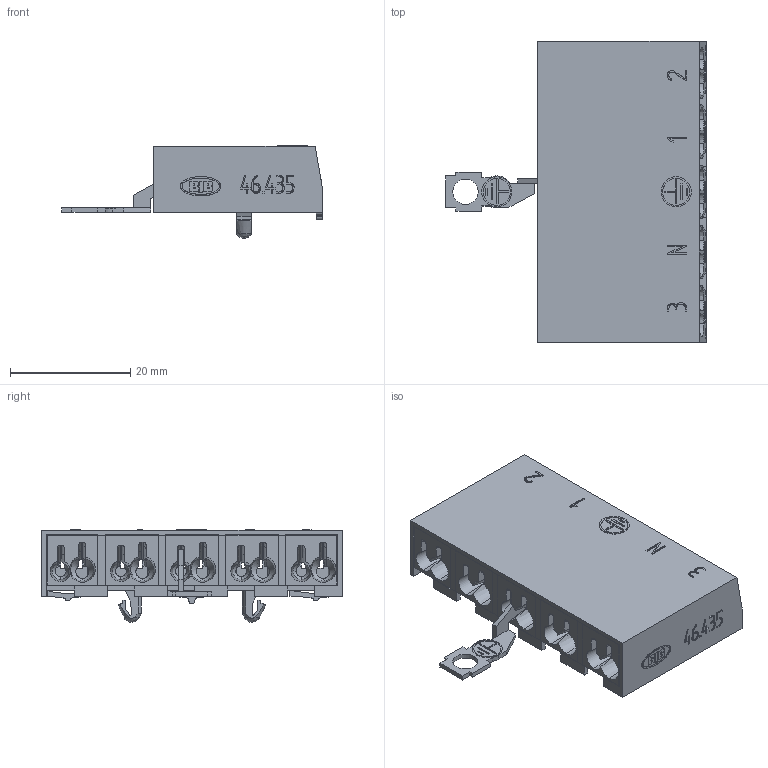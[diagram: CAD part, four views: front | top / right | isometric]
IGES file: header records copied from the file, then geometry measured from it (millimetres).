
Global section: file name: C:\CoreTechnologie\3D-in\011YM0FY02.igs; native system: CT CoreTechnologie 3D Evolution; preprocessor: 2006; date: 1180424.082156; units: millimetre
Bounding box: 43.3 x 50.05 x 15.39 mm (x, y, z)
Volume: 7012.3 mm3; surface area: 14001.4 mm2
Topology: 11 solids, 11 shells, 921 faces, 2594 edges, 1711 vertices
Faces by surface type: plane 658, revolution 213, bspline 50
